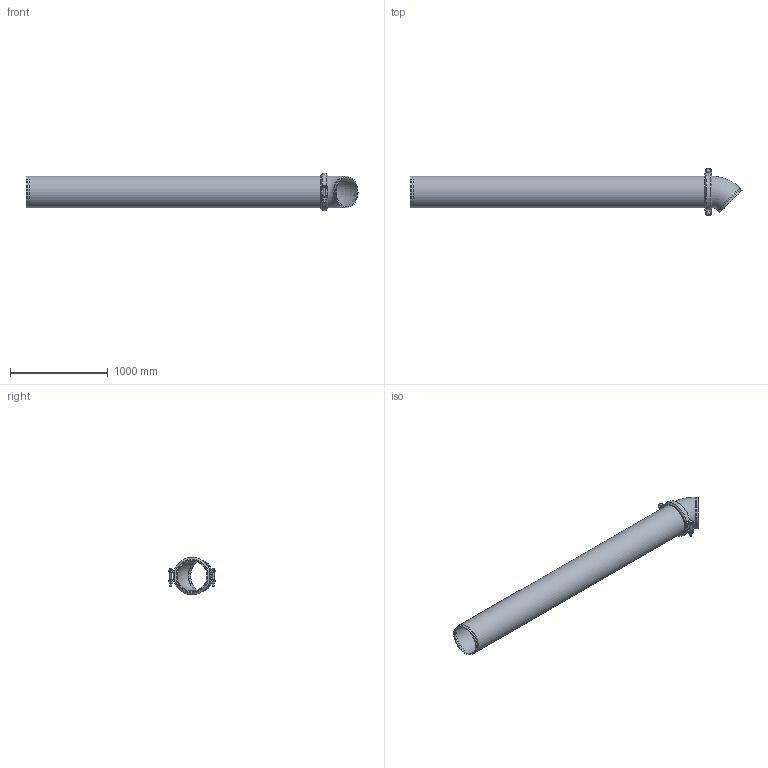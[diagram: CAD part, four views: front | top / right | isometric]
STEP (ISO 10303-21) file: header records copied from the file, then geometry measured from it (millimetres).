
FILE_DESCRIPTION(/* description */ ('VIC LONG RUN FITTING No R14 (OGS)','CAx-IF Rec.Pracs.---Representation and Presentation of Product Manufacturing Information (PMI)---4.0---2014-10-13'),/* implementation_level */ '2;1');
FILE_NAME(/* name */ 'C:\Users\Vjadhav\AppData\Roaming\Autodesk\ApplicationPlugins\Back Up\Victaulic_IPS_Long Run Fittings_No R14 (OGS)\Victaulic_IPS_Long Run Fittings_No R14 (OGS)_12 (300).stp',/* time_stamp */ '2020-10-13T18:29:03+06:00',/* author */ ('Vjadhav'),/* organization */ ('Victaulic'),/* preprocessor_version */ 'ST-DEVELOPER v17.2',/* originating_system */ 'Autodesk Inventor 2019',/* authorisation */ '');
FILE_SCHEMA (('AP242_MANAGED_MODEL_BASED_3D_ENGINEERING_MIM_LF { 1 0 10303 442 1 1 4 }'));
Length unit declared in the file: inch
Products named in the file (4): R14-12.0; 011-12.0; 107N-12.0; Pipe_R13-12.0
Assembly tree (3 placements, depth 2):
  R14-12.0
    011-12.0
    107N-12.0
    Pipe_R13-12.0
Bounding box: 3395.22 x 482.6 x 379.69 mm (x, y, z)
Volume: 33380412.4 mm3; surface area: 6859315.7 mm2
Topology: 3 solids, 3 shells, 145 faces, 363 edges, 244 vertices
Faces by surface type: plane 62, cylinder 59, bspline 16, cone 4, torus 2, sphere 2
Full cylindrical faces by diameter (mm): 22.225 x4, 37.694 x2, 304.8 x3, 311.15 x1, 318.287 x4, 323.85 x7
Entity records: 5316 total; most frequent: CARTESIAN_POINT 1383, DIRECTION 809, ORIENTED_EDGE 726, EDGE_CURVE 363, AXIS2_PLACEMENT_3D 318, VERTEX_POINT 244, EDGE_LOOP 175, LINE 173
